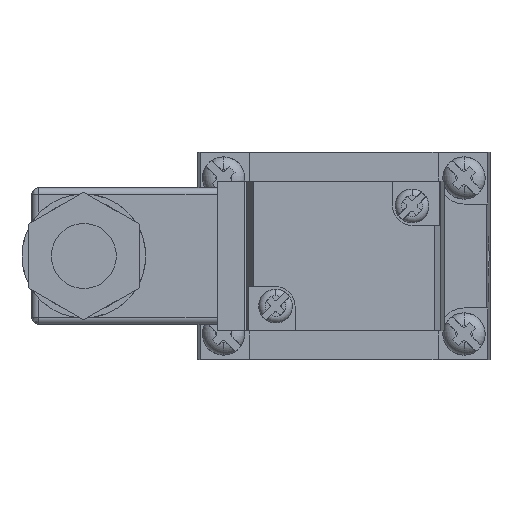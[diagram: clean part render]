
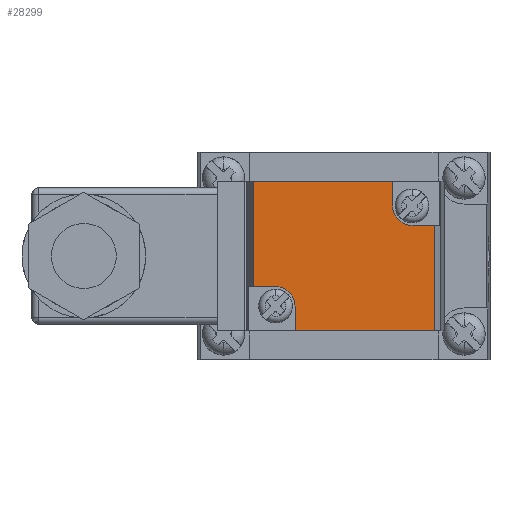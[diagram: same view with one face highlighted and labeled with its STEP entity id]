
A CAD part, left-side view. The second image highlights one B-rep face of the part: STEP entity #28299.
In plain terms, the highlighted planar face has unit normal (-1, 0, 0).
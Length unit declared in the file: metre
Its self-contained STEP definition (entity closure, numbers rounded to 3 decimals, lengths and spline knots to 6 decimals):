
#612 = ORIENTED_EDGE ( 'NONE', *, *, #29464, .F. ) ;
#1268 = VECTOR ( 'NONE', #21120, 1. ) ;
#1772 = CARTESIAN_POINT ( 'NONE',  ( -0.0978, 0.015, 0.0077 ) ) ;
#1960 = ORIENTED_EDGE ( 'NONE', *, *, #24324, .T. ) ;
#2219 = VECTOR ( 'NONE', #6226, 1. ) ;
#2427 = EDGE_CURVE ( 'NONE', #14516, #7249, #14381, .T. ) ;
#2830 = LINE ( 'NONE', #6195, #15200 ) ;
#3524 = DIRECTION ( 'NONE',  ( 0., -1., 0. ) ) ;
#3674 = DIRECTION ( 'NONE',  ( 0., 0., -1. ) ) ;
#4166 = ORIENTED_EDGE ( 'NONE', *, *, #11658, .F. ) ;
#4263 = VERTEX_POINT ( 'NONE', #30735 ) ;
#5203 = VERTEX_POINT ( 'NONE', #13793 ) ;
#6069 = ORIENTED_EDGE ( 'NONE', *, *, #13005, .T. ) ;
#6195 = CARTESIAN_POINT ( 'NONE',  ( -0.0978, 0.0364, 0. ) ) ;
#6226 = DIRECTION ( 'NONE',  ( 0., 0., 1. ) ) ;
#6271 = VERTEX_POINT ( 'NONE', #11260 ) ;
#6488 = VECTOR ( 'NONE', #25856, 1. ) ;
#6709 = EDGE_CURVE ( 'NONE', #8257, #5203, #24081, .T. ) ;
#7249 = VERTEX_POINT ( 'NONE', #15908 ) ;
#7307 = CARTESIAN_POINT ( 'NONE',  ( -0.0978, 0.012, 0.0077 ) ) ;
#7769 = DIRECTION ( 'NONE',  ( 1., 0., 0. ) ) ;
#7901 = LINE ( 'NONE', #18642, #1268 ) ;
#8043 = VERTEX_POINT ( 'NONE', #1772 ) ;
#8257 = VERTEX_POINT ( 'NONE', #12379 ) ;
#8749 = DIRECTION ( 'NONE',  ( 0., 1., 0. ) ) ;
#9301 = DIRECTION ( 'NONE',  ( 0., -1., 0. ) ) ;
#9801 = DIRECTION ( 'NONE',  ( 0., 0., 1. ) ) ;
#10248 = LINE ( 'NONE', #26542, #16769 ) ;
#10646 = VERTEX_POINT ( 'NONE', #10903 ) ;
#10903 = CARTESIAN_POINT ( 'NONE',  ( -0.0978, 0.0364, -0.0047 ) ) ;
#11260 = CARTESIAN_POINT ( 'NONE',  ( -0.0978, 0.015, 0.0115 ) ) ;
#11658 = EDGE_CURVE ( 'NONE', #6271, #8043, #20707, .T. ) ;
#11884 = AXIS2_PLACEMENT_3D ( 'NONE', #22525, #7769, #25020 ) ;
#12379 = CARTESIAN_POINT ( 'NONE',  ( -0.0978, 0.03, -0.0115 ) ) ;
#12635 = CARTESIAN_POINT ( 'NONE',  ( -0.0978, 0.008598, 0.0047 ) ) ;
#12876 = CARTESIAN_POINT ( 'NONE',  ( -0.0978, 0.033, -0.0047 ) ) ;
#13005 = EDGE_CURVE ( 'NONE', #4263, #10646, #2830, .T. ) ;
#13348 = VERTEX_POINT ( 'NONE', #12635 ) ;
#13479 = VERTEX_POINT ( 'NONE', #20507 ) ;
#13484 = CARTESIAN_POINT ( 'NONE',  ( -0.0978, 0.022499, -0.0115 ) ) ;
#13774 = EDGE_CURVE ( 'NONE', #10646, #14516, #10248, .T. ) ;
#13793 = CARTESIAN_POINT ( 'NONE',  ( -0.0978, 0.008598, -0.0115 ) ) ;
#14381 = CIRCLE ( 'NONE', #11884, 0.003 ) ;
#14516 = VERTEX_POINT ( 'NONE', #12876 ) ;
#14865 = ORIENTED_EDGE ( 'NONE', *, *, #2427, .T. ) ;
#15200 = VECTOR ( 'NONE', #3674, 1. ) ;
#15210 = ORIENTED_EDGE ( 'NONE', *, *, #22173, .T. ) ;
#15602 = ORIENTED_EDGE ( 'NONE', *, *, #18213, .T. ) ;
#15908 = CARTESIAN_POINT ( 'NONE',  ( -0.0978, 0.03, -0.0077 ) ) ;
#16052 = CARTESIAN_POINT ( 'NONE',  ( -0.0978, 0.022499, 0.0047 ) ) ;
#16640 = DIRECTION ( 'NONE',  ( 0., 0., -1. ) ) ;
#16769 = VECTOR ( 'NONE', #9301, 1. ) ;
#17065 = LINE ( 'NONE', #16052, #30223 ) ;
#17482 = VECTOR ( 'NONE', #3524, 1. ) ;
#17691 = ORIENTED_EDGE ( 'NONE', *, *, #13774, .T. ) ;
#18213 = EDGE_CURVE ( 'NONE', #5203, #13348, #18849, .T. ) ;
#18642 = CARTESIAN_POINT ( 'NONE',  ( -0.0978, 0.03, 0. ) ) ;
#18818 = LINE ( 'NONE', #20871, #6488 ) ;
#18849 = LINE ( 'NONE', #23376, #2219 ) ;
#18999 = AXIS2_PLACEMENT_3D ( 'NONE', #19659, #27011, #24633 ) ;
#19659 = CARTESIAN_POINT ( 'NONE',  ( -0.0978, 0.008598, 0.0115 ) ) ;
#20428 = FACE_OUTER_BOUND ( 'NONE', #30669, .T. ) ;
#20507 = CARTESIAN_POINT ( 'NONE',  ( -0.0978, 0.012, 0.0047 ) ) ;
#20707 = LINE ( 'NONE', #31440, #27277 ) ;
#20871 = CARTESIAN_POINT ( 'NONE',  ( -0.0978, 0.0225, 0.0115 ) ) ;
#21120 = DIRECTION ( 'NONE',  ( 0., 0., -1. ) ) ;
#22130 = PLANE ( 'NONE',  #18999 ) ;
#22173 = EDGE_CURVE ( 'NONE', #7249, #8257, #7901, .T. ) ;
#22525 = CARTESIAN_POINT ( 'NONE',  ( -0.0978, 0.033, -0.0077 ) ) ;
#23376 = CARTESIAN_POINT ( 'NONE',  ( -0.0978, 0.008598, 0. ) ) ;
#23645 = EDGE_CURVE ( 'NONE', #13348, #13479, #17065, .T. ) ;
#24081 = LINE ( 'NONE', #13484, #17482 ) ;
#24324 = EDGE_CURVE ( 'NONE', #13479, #8043, #27877, .T. ) ;
#24557 = DIRECTION ( 'NONE',  ( 1., 0., 0. ) ) ;
#24633 = DIRECTION ( 'NONE',  ( 0., 1., 0. ) ) ;
#24730 = AXIS2_PLACEMENT_3D ( 'NONE', #7307, #24557, #9801 ) ;
#25020 = DIRECTION ( 'NONE',  ( 0., 0., 1. ) ) ;
#25856 = DIRECTION ( 'NONE',  ( 0., -1., 0. ) ) ;
#26542 = CARTESIAN_POINT ( 'NONE',  ( -0.0978, 0.022499, -0.0047 ) ) ;
#27011 = DIRECTION ( 'NONE',  ( -1., 0., 0. ) ) ;
#27277 = VECTOR ( 'NONE', #16640, 1. ) ;
#27877 = CIRCLE ( 'NONE', #24730, 0.003 ) ;
#28299 = ADVANCED_FACE ( 'NONE', ( #20428 ), #22130, .T. ) ;
#29464 = EDGE_CURVE ( 'NONE', #4263, #6271, #18818, .T. ) ;
#30223 = VECTOR ( 'NONE', #8749, 1. ) ;
#30669 = EDGE_LOOP ( 'NONE', ( #17691, #14865, #15210, #31768, #15602, #31778, #1960, #4166, #612, #6069 ) ) ;
#30735 = CARTESIAN_POINT ( 'NONE',  ( -0.0978, 0.0364, 0.0115 ) ) ;
#31440 = CARTESIAN_POINT ( 'NONE',  ( -0.0978, 0.015, 0.0096 ) ) ;
#31768 = ORIENTED_EDGE ( 'NONE', *, *, #6709, .T. ) ;
#31778 = ORIENTED_EDGE ( 'NONE', *, *, #23645, .T. ) ;
